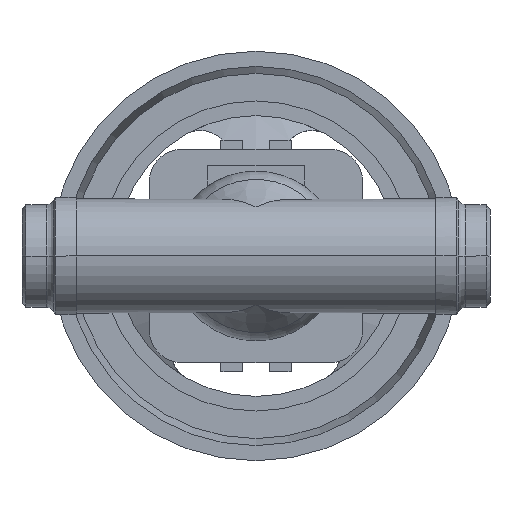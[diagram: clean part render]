
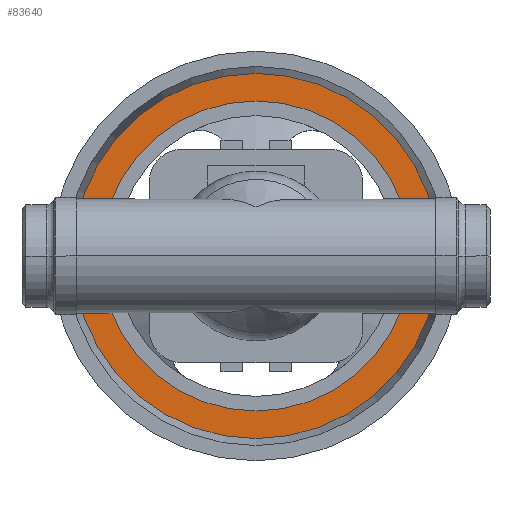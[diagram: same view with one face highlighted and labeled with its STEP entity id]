
A CAD part, front view. The second image highlights one B-rep face of the part: STEP entity #83640.
In plain terms, the highlighted planar face has unit normal (0, -1, 0).
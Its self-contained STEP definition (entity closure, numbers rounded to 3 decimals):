
#83090=CARTESIAN_POINT('',(17.588,245.8,0.));
#83100=VERTEX_POINT('',#83090);
#83180=CARTESIAN_POINT('',(142.412,245.8,0.))
;
#83190=VERTEX_POINT('',#83180);
#83220=CARTESIAN_POINT('',(80.,245.8,0.));
#83230=DIRECTION('',(0.,1.,0.));
#83240=DIRECTION('',(-1.,0.,0.));
#83250=AXIS2_PLACEMENT_3D('',#83220,#83230,#83240);
#83260=CIRCLE('',#83250,62.412);
#83270=EDGE_CURVE('',#83100,#83190,#83260,.T.);
#83390=CARTESIAN_POINT('',(22.294,245.8,0.))
;
#83400=DIRECTION('',(0.,-1.,0.));
#83410=DIRECTION('',(1.,0.,0.));
#83420=AXIS2_PLACEMENT_3D('',#83390,#83400,#83410);
#83430=PLANE('',#83420);
#83440=EDGE_CURVE('',#83190,#83100,#83260,.T.);
#83450=ORIENTED_EDGE('',*,*,#83440,.F.);
#83460=ORIENTED_EDGE('',*,*,#83270,.F.);
#83470=EDGE_LOOP('',(#83460,#83450));
#83480=FACE_OUTER_BOUND('',#83470,.T.);
#83490=CARTESIAN_POINT('',(80.,245.8,0.));
#83500=DIRECTION('',(0.,1.,0.));
#83510=DIRECTION('',(-1.,0.,0.));
#83520=AXIS2_PLACEMENT_3D('',#83490,#83500,#83510);
#83530=CIRCLE('',#83520,53.);
#83540=CARTESIAN_POINT('',(133.,245.8,0.));
#83550=VERTEX_POINT('',#83540);
#83560=CARTESIAN_POINT('',(27.,245.8,0.));
#83570=VERTEX_POINT('',#83560);
#83580=EDGE_CURVE('',#83550,#83570,#83530,.T.);
#83590=ORIENTED_EDGE('',*,*,#83580,.T.);
#83600=EDGE_CURVE('',#83570,#83550,#83530,.T.);
#83610=ORIENTED_EDGE('',*,*,#83600,.T.);
#83620=EDGE_LOOP('',(#83610,#83590));
#83630=FACE_BOUND('',#83620,.T.);
#83640=ADVANCED_FACE('',(#83480,#83630),#83430,.T.);
